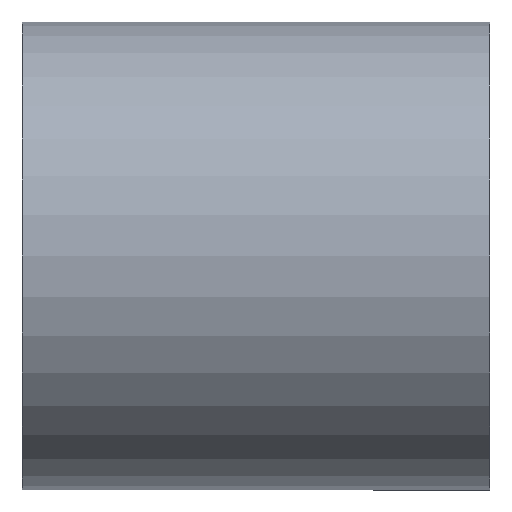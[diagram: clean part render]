
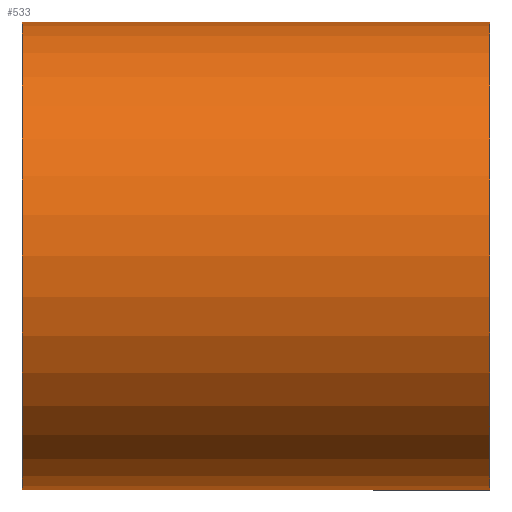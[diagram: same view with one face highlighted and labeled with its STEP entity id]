
A CAD part, front view. The second image highlights one B-rep face of the part: STEP entity #533.
In plain terms, the highlighted cylindrical face has radius 12.5 mm (diameter 25 mm), a partial arc.
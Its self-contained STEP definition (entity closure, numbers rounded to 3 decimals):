
#10 = VERTEX_POINT ( 'NONE', #566 ) ;
#17 = DIRECTION ( 'NONE',  ( -1., 0., 0. ) ) ;
#21 = DIRECTION ( 'NONE',  ( -1., 0., 0. ) ) ;
#55 = VERTEX_POINT ( 'NONE', #431 ) ;
#76 = LINE ( 'NONE', #339, #395 ) ;
#145 = CIRCLE ( 'NONE', #679, 12.5 ) ;
#163 = LINE ( 'NONE', #817, #873 ) ;
#189 = AXIS2_PLACEMENT_3D ( 'NONE', #821, #429, #627 ) ;
#194 = FACE_OUTER_BOUND ( 'NONE', #422, .T. ) ;
#206 = DIRECTION ( 'NONE',  ( 0., 0., 1. ) ) ;
#217 = ORIENTED_EDGE ( 'NONE', *, *, #625, .T. ) ;
#228 = VERTEX_POINT ( 'NONE', #617 ) ;
#274 = EDGE_CURVE ( 'NONE', #750, #55, #354, .T. ) ;
#299 = CARTESIAN_POINT ( 'NONE',  ( 12.5, 0., -12.5 ) ) ;
#339 = CARTESIAN_POINT ( 'NONE',  ( 0., 0., -12.5 ) ) ;
#354 = CIRCLE ( 'NONE', #683, 12.5 ) ;
#358 = ORIENTED_EDGE ( 'NONE', *, *, #512, .F. ) ;
#395 = VECTOR ( 'NONE', #746, 1000. ) ;
#422 = EDGE_LOOP ( 'NONE', ( #572, #448, #217, #358 ) ) ;
#429 = DIRECTION ( 'NONE',  ( -1., 0., 0. ) ) ;
#431 = CARTESIAN_POINT ( 'NONE',  ( 12.5, 0., 12.5 ) ) ;
#448 = ORIENTED_EDGE ( 'NONE', *, *, #274, .T. ) ;
#512 = EDGE_CURVE ( 'NONE', #228, #10, #145, .T. ) ;
#522 = CARTESIAN_POINT ( 'NONE',  ( -12.5, 0., 0. ) ) ;
#528 = DIRECTION ( 'NONE',  ( 0., 0., 1. ) ) ;
#533 = ADVANCED_FACE ( 'NONE', ( #194 ), #880, .T. ) ;
#566 = CARTESIAN_POINT ( 'NONE',  ( -12.5, 0., 12.5 ) ) ;
#572 = ORIENTED_EDGE ( 'NONE', *, *, #612, .F. ) ;
#612 = EDGE_CURVE ( 'NONE', #750, #228, #76, .T. ) ;
#617 = CARTESIAN_POINT ( 'NONE',  ( -12.5, 0., -12.5 ) ) ;
#625 = EDGE_CURVE ( 'NONE', #55, #10, #163, .T. ) ;
#627 = DIRECTION ( 'NONE',  ( 0., 0., 1. ) ) ;
#679 = AXIS2_PLACEMENT_3D ( 'NONE', #522, #804, #528 ) ;
#683 = AXIS2_PLACEMENT_3D ( 'NONE', #831, #21, #206 ) ;
#746 = DIRECTION ( 'NONE',  ( -1., 0., 0. ) ) ;
#750 = VERTEX_POINT ( 'NONE', #299 ) ;
#804 = DIRECTION ( 'NONE',  ( -1., 0., 0. ) ) ;
#817 = CARTESIAN_POINT ( 'NONE',  ( 0., 0., 12.5 ) ) ;
#821 = CARTESIAN_POINT ( 'NONE',  ( 0., 0., 0. ) ) ;
#831 = CARTESIAN_POINT ( 'NONE',  ( 12.5, 0., 0. ) ) ;
#873 = VECTOR ( 'NONE', #17, 1000. ) ;
#880 = CYLINDRICAL_SURFACE ( 'NONE', #189, 12.5 ) ;
